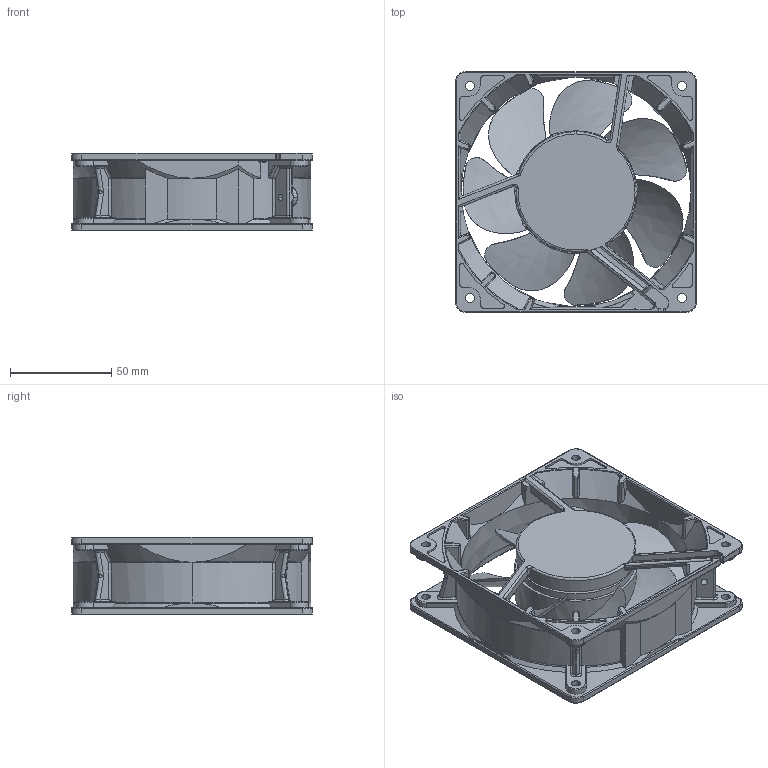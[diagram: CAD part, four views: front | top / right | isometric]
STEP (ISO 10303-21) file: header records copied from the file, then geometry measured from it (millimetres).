
FILE_DESCRIPTION (( 'STEP AP203' ), '1' );
FILE_NAME ('12038GL_RIBLESS.STEP', '2017-03-24T02:47:42', ( '' ), ( '' ), 'SwSTEP 2.0', 'SolidWorks 2017', '' );
FILE_SCHEMA (( 'CONFIG_CONTROL_DESIGN' ));
Length unit declared in the file: millimetre
Products named in the file (1): 12038GL_RIBLESS
Bounding box: 119 x 119 x 38.2 mm (x, y, z)
Volume: 163807.6 mm3; surface area: 73004 mm2
Topology: 1 solids, 1 shells, 792 faces, 2109 edges, 1297 vertices
Faces by surface type: cylinder 284, bspline 278, plane 171, cone 59
Entity records: 38971 total; most frequent: CARTESIAN_POINT 21675, ORIENTED_EDGE 4154, DIRECTION 2950, EDGE_CURVE 2077, VERTEX_POINT 1297, AXIS2_PLACEMENT_3D 1148, EDGE_LOOP 826, FACE_OUTER_BOUND 792
